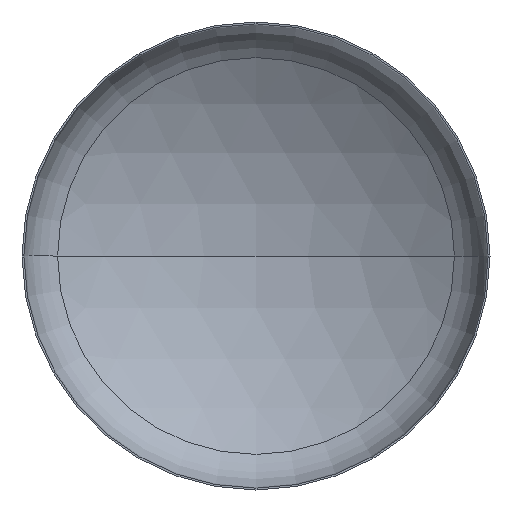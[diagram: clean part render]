
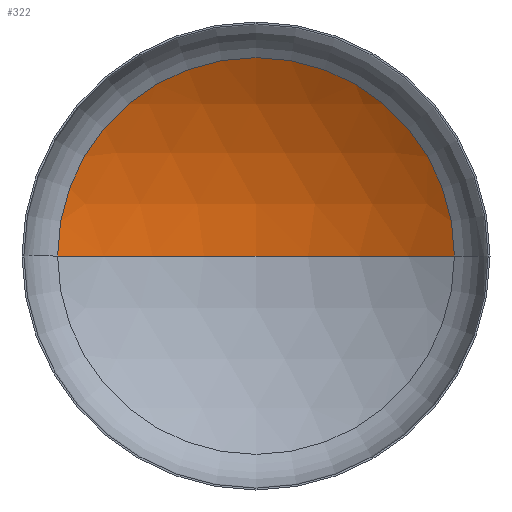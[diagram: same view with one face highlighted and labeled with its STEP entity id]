
A CAD part, front view. The second image highlights one B-rep face of the part: STEP entity #322.
In plain terms, the highlighted spherical face has radius 2560 mm.
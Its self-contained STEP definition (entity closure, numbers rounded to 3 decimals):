
#13 = AXIS2_PLACEMENT_3D ( 'NONE', #111, #38, #268 ) ;
#14 = AXIS2_PLACEMENT_3D ( 'NONE', #36, #31, #99 ) ;
#18 = AXIS2_PLACEMENT_3D ( 'NONE', #409, #356, #181 ) ;
#22 = AXIS2_PLACEMENT_3D ( 'NONE', #70, #102, #97 ) ;
#31 = DIRECTION ( 'NONE',  ( 0., 0., -1. ) ) ;
#36 = CARTESIAN_POINT ( 'NONE',  ( 0., -1715.418, 0. ) ) ;
#38 = DIRECTION ( 'NONE',  ( 0., 0., 1. ) ) ;
#70 = CARTESIAN_POINT ( 'NONE',  ( 0., 455.534, 0. ) ) ;
#97 = DIRECTION ( 'NONE',  ( 1., 0., 0. ) ) ;
#99 = DIRECTION ( 'NONE',  ( -1., 0., 0. ) ) ;
#102 = DIRECTION ( 'NONE',  ( 0., -1., 0. ) ) ;
#111 = CARTESIAN_POINT ( 'NONE',  ( 0., -1715.418, 0. ) ) ;
#144 = CARTESIAN_POINT ( 'NONE',  ( 0., 844.582, 0. ) ) ;
#153 = CIRCLE ( 'NONE', #22, 1356.676 ) ;
#154 = VERTEX_POINT ( 'NONE', #144 ) ;
#165 = ORIENTED_EDGE ( 'NONE', *, *, #325, .T. ) ;
#167 = CARTESIAN_POINT ( 'NONE',  ( 1356.676, 455.534, 0. ) ) ;
#181 = DIRECTION ( 'NONE',  ( -1., 0., 0. ) ) ;
#188 = VERTEX_POINT ( 'NONE', #167 ) ;
#226 = CIRCLE ( 'NONE', #13, 2560. ) ;
#240 = EDGE_LOOP ( 'NONE', ( #253, #165, #405 ) ) ;
#253 = ORIENTED_EDGE ( 'NONE', *, *, #326, .F. ) ;
#268 = DIRECTION ( 'NONE',  ( 1., 0., 0. ) ) ;
#306 = CIRCLE ( 'NONE', #18, 2560. ) ;
#312 = FACE_OUTER_BOUND ( 'NONE', #240, .T. ) ;
#319 = EDGE_CURVE ( 'NONE', #188, #333, #153, .T. ) ;
#322 = ADVANCED_FACE ( 'NONE', ( #312 ), #378, .F. ) ;
#325 = EDGE_CURVE ( 'NONE', #154, #188, #306, .T. ) ;
#326 = EDGE_CURVE ( 'NONE', #154, #333, #226, .T. ) ;
#333 = VERTEX_POINT ( 'NONE', #340 ) ;
#340 = CARTESIAN_POINT ( 'NONE',  ( -1356.676, 455.534, 0. ) ) ;
#356 = DIRECTION ( 'NONE',  ( 0., 0., -1. ) ) ;
#378 = SPHERICAL_SURFACE ( 'NONE', #14, 2560. ) ;
#405 = ORIENTED_EDGE ( 'NONE', *, *, #319, .T. ) ;
#409 = CARTESIAN_POINT ( 'NONE',  ( 0., -1715.418, 0. ) ) ;
